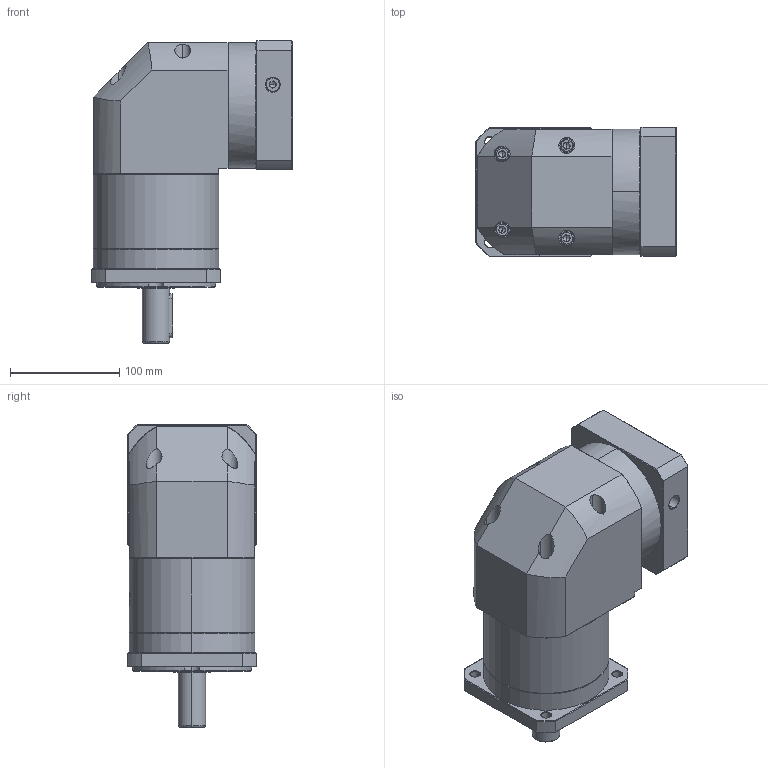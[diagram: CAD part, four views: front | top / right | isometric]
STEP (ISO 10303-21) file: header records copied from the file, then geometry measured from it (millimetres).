
FILE_DESCRIPTION (( 'STEP AP214' ), '1' );
FILE_NAME ('ZFR120A-D25-L2-P2-24-95-115-M6.step', '2023-08-27T08:03:59', ( '' ), ( '' ), 'SwSTEP 2.0', 'SolidWorks 2016', '' );
FILE_SCHEMA (( 'AUTOMOTIVE_DESIGN' ));
Length unit declared in the file: millimetre
Products named in the file (1): ZFR120A-D25-L2-P2-24-95-115-M6
Bounding box: 183.9 x 118 x 276.5 mm (x, y, z)
Volume: 3091389.9 mm3; surface area: 245998.8 mm2
Topology: 6 solids, 6 shells, 2252 faces, 5930 edges, 3782 vertices
Faces by surface type: plane 1060, bspline 428, cylinder 419, cone 337, torus 8
Entity records: 124336 total; most frequent: CARTESIAN_POINT 49454, ORIENTED_EDGE 11800, DIRECTION 8554, EDGE_CURVE 5900, VERTEX_POINT 3782, VECTOR 3138, LINE 3138, AXIS2_PLACEMENT_3D 2708
